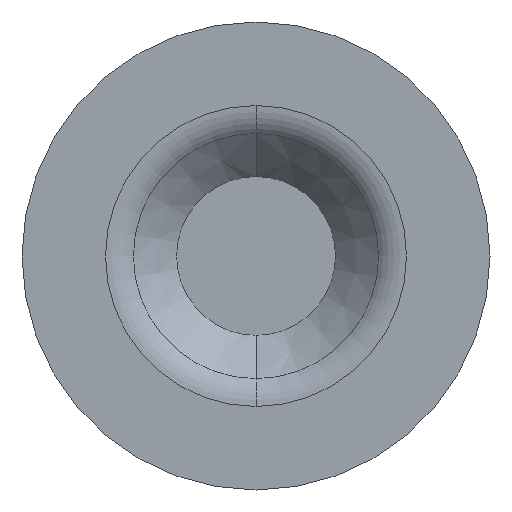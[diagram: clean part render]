
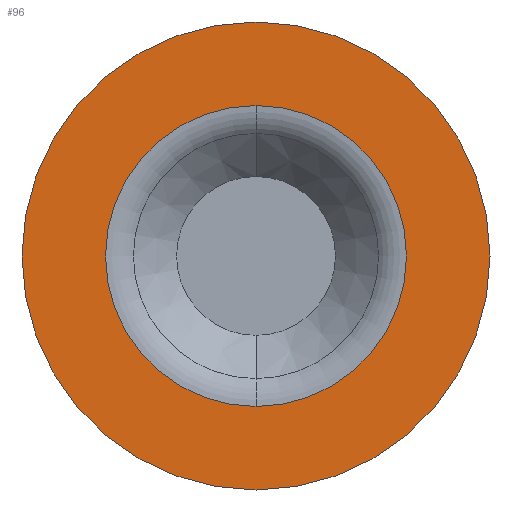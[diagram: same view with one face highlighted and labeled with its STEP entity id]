
A CAD part, front view. The second image highlights one B-rep face of the part: STEP entity #96.
In plain terms, the highlighted planar face has unit normal (0, -1, 0).
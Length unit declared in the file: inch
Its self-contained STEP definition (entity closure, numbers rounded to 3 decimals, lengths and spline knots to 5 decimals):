
#6 = DIRECTION ( 'NONE',  ( 0., 0., 1. ) ) ;
#23 = AXIS2_PLACEMENT_3D ( 'NONE', #426, #86, #6 ) ;
#41 = EDGE_CURVE ( 'NONE', #80, #149, #491, .T. ) ;
#44 = CARTESIAN_POINT ( 'NONE',  ( 0., -0.075, -0.625 ) ) ;
#49 = EDGE_CURVE ( 'NONE', #169, #482, #281, .T. ) ;
#54 = DIRECTION ( 'NONE',  ( 0., 0., -1. ) ) ;
#60 = ORIENTED_EDGE ( 'NONE', *, *, #198, .F. ) ;
#70 = CARTESIAN_POINT ( 'NONE',  ( 0., -0.075, 0.625 ) ) ;
#80 = VERTEX_POINT ( 'NONE', #295 ) ;
#81 = AXIS2_PLACEMENT_3D ( 'NONE', #446, #98, #54 ) ;
#84 = ORIENTED_EDGE ( 'NONE', *, *, #249, .T. ) ;
#86 = DIRECTION ( 'NONE',  ( 0., 1., 0. ) ) ;
#96 = ADVANCED_FACE ( 'NONE', ( #194, #117 ), #350, .F. ) ;
#97 = CIRCLE ( 'NONE', #145, 0.625 ) ;
#98 = DIRECTION ( 'NONE',  ( 0., -1., 0. ) ) ;
#117 = FACE_OUTER_BOUND ( 'NONE', #122, .T. ) ;
#121 = CARTESIAN_POINT ( 'NONE',  ( 0., -0.075, 0.40189 ) ) ;
#122 = EDGE_LOOP ( 'NONE', ( #463, #84 ) ) ;
#129 = DIRECTION ( 'NONE',  ( 0., -1., 0. ) ) ;
#132 = CARTESIAN_POINT ( 'NONE',  ( 0., -0.075, 0. ) ) ;
#145 = AXIS2_PLACEMENT_3D ( 'NONE', #165, #204, #172 ) ;
#149 = VERTEX_POINT ( 'NONE', #121 ) ;
#161 = EDGE_LOOP ( 'NONE', ( #390, #60 ) ) ;
#165 = CARTESIAN_POINT ( 'NONE',  ( 0., -0.075, 0. ) ) ;
#169 = VERTEX_POINT ( 'NONE', #44 ) ;
#171 = AXIS2_PLACEMENT_3D ( 'NONE', #132, #251, #287 ) ;
#172 = DIRECTION ( 'NONE',  ( 0., 0., -1. ) ) ;
#194 = FACE_BOUND ( 'NONE', #161, .T. ) ;
#198 = EDGE_CURVE ( 'NONE', #149, #80, #274, .T. ) ;
#204 = DIRECTION ( 'NONE',  ( 0., -1., 0. ) ) ;
#249 = EDGE_CURVE ( 'NONE', #482, #169, #97, .T. ) ;
#251 = DIRECTION ( 'NONE',  ( 0., -1., 0. ) ) ;
#274 = CIRCLE ( 'NONE', #81, 0.40189 ) ;
#281 = CIRCLE ( 'NONE', #171, 0.625 ) ;
#287 = DIRECTION ( 'NONE',  ( 0., 0., -1. ) ) ;
#295 = CARTESIAN_POINT ( 'NONE',  ( 0., -0.075, -0.40189 ) ) ;
#327 = CARTESIAN_POINT ( 'NONE',  ( 0., -0.075, 0. ) ) ;
#350 = PLANE ( 'NONE',  #23 ) ;
#362 = DIRECTION ( 'NONE',  ( 0., 0., -1. ) ) ;
#390 = ORIENTED_EDGE ( 'NONE', *, *, #41, .F. ) ;
#426 = CARTESIAN_POINT ( 'NONE',  ( -0.625, -0.075, 0. ) ) ;
#437 = AXIS2_PLACEMENT_3D ( 'NONE', #327, #129, #362 ) ;
#446 = CARTESIAN_POINT ( 'NONE',  ( 0., -0.075, 0. ) ) ;
#463 = ORIENTED_EDGE ( 'NONE', *, *, #49, .T. ) ;
#482 = VERTEX_POINT ( 'NONE', #70 ) ;
#491 = CIRCLE ( 'NONE', #437, 0.40189 ) ;
